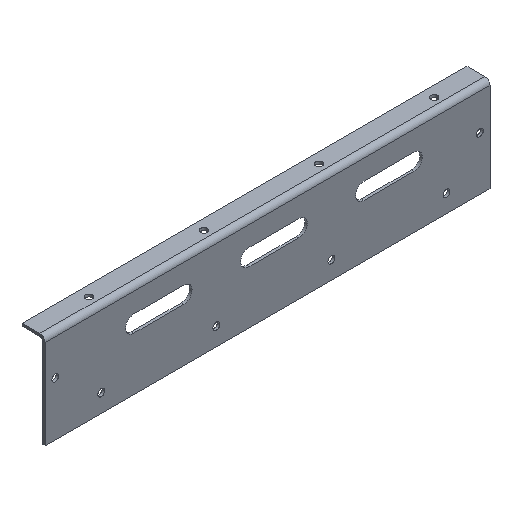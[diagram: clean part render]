
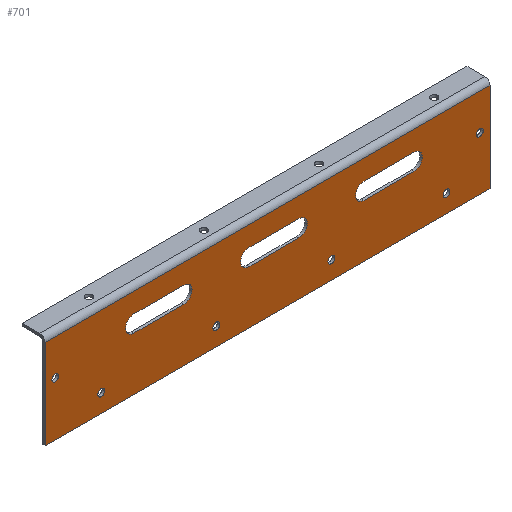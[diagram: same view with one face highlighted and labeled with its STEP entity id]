
A CAD part, isometric view. The second image highlights one B-rep face of the part: STEP entity #701.
In plain terms, the highlighted planar face has unit normal (0, -1, 0).
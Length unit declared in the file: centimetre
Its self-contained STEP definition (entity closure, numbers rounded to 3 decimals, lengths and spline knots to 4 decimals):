
#23=FACE_BOUND('',#136,.T.);
#24=FACE_BOUND('',#137,.T.);
#25=FACE_BOUND('',#138,.T.);
#26=FACE_BOUND('',#139,.T.);
#27=FACE_BOUND('',#140,.T.);
#28=FACE_BOUND('',#141,.T.);
#29=FACE_BOUND('',#142,.T.);
#30=FACE_BOUND('',#143,.T.);
#31=FACE_BOUND('',#144,.T.);
#55=PLANE('',#787);
#91=FACE_OUTER_BOUND('',#135,.T.);
#135=EDGE_LOOP('',(#599,#600,#601,#602));
#136=EDGE_LOOP('',(#603,#604,#605,#606));
#137=EDGE_LOOP('',(#607,#608,#609,#610));
#138=EDGE_LOOP('',(#611));
#139=EDGE_LOOP('',(#612));
#140=EDGE_LOOP('',(#613));
#141=EDGE_LOOP('',(#614));
#142=EDGE_LOOP('',(#615));
#143=EDGE_LOOP('',(#616));
#144=EDGE_LOOP('',(#617,#618,#619,#620));
#161=LINE('',#1023,#219);
#166=LINE('',#1037,#224);
#175=LINE('',#1083,#233);
#180=LINE('',#1097,#238);
#183=LINE('',#1107,#241);
#188=LINE('',#1121,#246);
#192=LINE('',#1135,#250);
#207=LINE('',#1171,#265);
#210=LINE('',#1177,#268);
#211=LINE('',#1178,#269);
#219=VECTOR('',#823,1.);
#224=VECTOR('',#836,1.);
#233=VECTOR('',#889,1.);
#238=VECTOR('',#902,1.);
#241=VECTOR('',#913,1.);
#246=VECTOR('',#926,1.);
#250=VECTOR('',#940,1.);
#265=VECTOR('',#979,1.);
#268=VECTOR('',#984,1.);
#269=VECTOR('',#985,1.);
#281=CIRCLE('',#733,0.325);
#283=CIRCLE('',#737,0.325);
#285=CIRCLE('',#740,0.135);
#287=CIRCLE('',#743,0.135);
#289=CIRCLE('',#746,0.135);
#291=CIRCLE('',#749,0.135);
#293=CIRCLE('',#752,0.135);
#295=CIRCLE('',#755,0.135);
#297=CIRCLE('',#759,0.325);
#299=CIRCLE('',#763,0.325);
#301=CIRCLE('',#767,0.325);
#303=CIRCLE('',#771,0.325);
#317=VERTEX_POINT('',#1021);
#318=VERTEX_POINT('',#1022);
#321=VERTEX_POINT('',#1030);
#323=VERTEX_POINT('',#1036);
#325=VERTEX_POINT('',#1045);
#327=VERTEX_POINT('',#1051);
#329=VERTEX_POINT('',#1057);
#331=VERTEX_POINT('',#1063);
#333=VERTEX_POINT('',#1069);
#335=VERTEX_POINT('',#1075);
#337=VERTEX_POINT('',#1081);
#338=VERTEX_POINT('',#1082);
#341=VERTEX_POINT('',#1090);
#343=VERTEX_POINT('',#1096);
#345=VERTEX_POINT('',#1105);
#346=VERTEX_POINT('',#1106);
#349=VERTEX_POINT('',#1114);
#351=VERTEX_POINT('',#1120);
#355=VERTEX_POINT('',#1132);
#356=VERTEX_POINT('',#1134);
#365=VERTEX_POINT('',#1170);
#367=VERTEX_POINT('',#1176);
#381=EDGE_CURVE('',#317,#318,#161,.T.);
#385=EDGE_CURVE('',#318,#321,#281,.T.);
#388=EDGE_CURVE('',#321,#323,#166,.T.);
#391=EDGE_CURVE('',#323,#317,#283,.T.);
#393=EDGE_CURVE('',#325,#325,#285,.T.);
#396=EDGE_CURVE('',#327,#327,#287,.T.);
#399=EDGE_CURVE('',#329,#329,#289,.T.);
#402=EDGE_CURVE('',#331,#331,#291,.T.);
#405=EDGE_CURVE('',#333,#333,#293,.T.);
#408=EDGE_CURVE('',#335,#335,#295,.T.);
#411=EDGE_CURVE('',#337,#338,#175,.T.);
#415=EDGE_CURVE('',#338,#341,#297,.T.);
#418=EDGE_CURVE('',#341,#343,#180,.T.);
#421=EDGE_CURVE('',#343,#337,#299,.T.);
#423=EDGE_CURVE('',#345,#346,#183,.T.);
#427=EDGE_CURVE('',#346,#349,#301,.T.);
#430=EDGE_CURVE('',#349,#351,#188,.T.);
#433=EDGE_CURVE('',#351,#345,#303,.T.);
#437=EDGE_CURVE('',#356,#355,#192,.T.);
#455=EDGE_CURVE('',#365,#356,#207,.T.);
#458=EDGE_CURVE('',#355,#367,#210,.T.);
#459=EDGE_CURVE('',#367,#365,#211,.T.);
#599=ORIENTED_EDGE('',*,*,#437,.T.);
#600=ORIENTED_EDGE('',*,*,#458,.T.);
#601=ORIENTED_EDGE('',*,*,#459,.T.);
#602=ORIENTED_EDGE('',*,*,#455,.T.);
#603=ORIENTED_EDGE('',*,*,#430,.T.);
#604=ORIENTED_EDGE('',*,*,#433,.T.);
#605=ORIENTED_EDGE('',*,*,#423,.T.);
#606=ORIENTED_EDGE('',*,*,#427,.T.);
#607=ORIENTED_EDGE('',*,*,#418,.T.);
#608=ORIENTED_EDGE('',*,*,#421,.T.);
#609=ORIENTED_EDGE('',*,*,#411,.T.);
#610=ORIENTED_EDGE('',*,*,#415,.T.);
#611=ORIENTED_EDGE('',*,*,#408,.T.);
#612=ORIENTED_EDGE('',*,*,#405,.T.);
#613=ORIENTED_EDGE('',*,*,#402,.T.);
#614=ORIENTED_EDGE('',*,*,#399,.T.);
#615=ORIENTED_EDGE('',*,*,#396,.T.);
#616=ORIENTED_EDGE('',*,*,#393,.T.);
#617=ORIENTED_EDGE('',*,*,#388,.T.);
#618=ORIENTED_EDGE('',*,*,#391,.T.);
#619=ORIENTED_EDGE('',*,*,#381,.T.);
#620=ORIENTED_EDGE('',*,*,#385,.T.);
#701=ADVANCED_FACE('',(#91,#23,#24,#25,#26,#27,#28,#29,#30,#31),#55,.F.);
#733=AXIS2_PLACEMENT_3D('',#1031,#829,#830);
#737=AXIS2_PLACEMENT_3D('',#1042,#841,#842);
#740=AXIS2_PLACEMENT_3D('',#1046,#847,#848);
#743=AXIS2_PLACEMENT_3D('',#1052,#854,#855);
#746=AXIS2_PLACEMENT_3D('',#1058,#861,#862);
#749=AXIS2_PLACEMENT_3D('',#1064,#868,#869);
#752=AXIS2_PLACEMENT_3D('',#1070,#875,#876);
#755=AXIS2_PLACEMENT_3D('',#1076,#882,#883);
#759=AXIS2_PLACEMENT_3D('',#1091,#895,#896);
#763=AXIS2_PLACEMENT_3D('',#1102,#907,#908);
#767=AXIS2_PLACEMENT_3D('',#1115,#919,#920);
#771=AXIS2_PLACEMENT_3D('',#1126,#931,#932);
#787=AXIS2_PLACEMENT_3D('',#1175,#982,#983);
#823=DIRECTION('',(1.,0.,0.));
#829=DIRECTION('center_axis',(0.,1.,0.));
#830=DIRECTION('ref_axis',(0.,0.,1.));
#836=DIRECTION('',(-1.,0.,0.));
#841=DIRECTION('center_axis',(0.,1.,0.));
#842=DIRECTION('ref_axis',(0.,0.,-1.));
#847=DIRECTION('center_axis',(0.,1.,0.));
#848=DIRECTION('ref_axis',(1.,0.,0.));
#854=DIRECTION('center_axis',(0.,1.,0.));
#855=DIRECTION('ref_axis',(1.,0.,0.));
#861=DIRECTION('center_axis',(0.,1.,0.));
#862=DIRECTION('ref_axis',(1.,0.,0.));
#868=DIRECTION('center_axis',(0.,1.,0.));
#869=DIRECTION('ref_axis',(1.,0.,0.));
#875=DIRECTION('center_axis',(0.,1.,0.));
#876=DIRECTION('ref_axis',(1.,0.,0.));
#882=DIRECTION('center_axis',(0.,1.,0.));
#883=DIRECTION('ref_axis',(1.,0.,0.));
#889=DIRECTION('',(1.,0.,0.));
#895=DIRECTION('center_axis',(0.,1.,0.));
#896=DIRECTION('ref_axis',(0.,0.,1.));
#902=DIRECTION('',(-1.,0.,0.));
#907=DIRECTION('center_axis',(0.,1.,0.));
#908=DIRECTION('ref_axis',(0.,0.,-1.));
#913=DIRECTION('',(1.,0.,0.));
#919=DIRECTION('center_axis',(0.,1.,0.));
#920=DIRECTION('ref_axis',(0.,0.,1.));
#926=DIRECTION('',(-1.,0.,0.));
#931=DIRECTION('center_axis',(0.,1.,0.));
#932=DIRECTION('ref_axis',(0.,0.,-1.));
#940=DIRECTION('',(-1.,0.,0.));
#979=DIRECTION('',(0.,0.,1.));
#982=DIRECTION('center_axis',(0.,1.,0.));
#983=DIRECTION('ref_axis',(1.,0.,0.));
#984=DIRECTION('',(0.,0.,-1.));
#985=DIRECTION('',(1.,0.,0.));
#1021=CARTESIAN_POINT('',(8.275,-3.635,3.425));
#1022=CARTESIAN_POINT('',(10.225,-3.635,3.425));
#1023=CARTESIAN_POINT('',(8.6375,-3.635,3.425));
#1030=CARTESIAN_POINT('',(10.225,-3.635,2.775));
#1031=CARTESIAN_POINT('Origin',(10.225,-3.635,3.1));
#1036=CARTESIAN_POINT('',(8.275,-3.635,2.775));
#1037=CARTESIAN_POINT('',(9.6125,-3.635,2.775));
#1042=CARTESIAN_POINT('Origin',(8.275,-3.635,3.1));
#1045=CARTESIAN_POINT('',(17.165,-3.635,2.8));
#1046=CARTESIAN_POINT('Origin',(17.3,-3.635,2.8));
#1051=CARTESIAN_POINT('',(0.565,-3.635,2.8));
#1052=CARTESIAN_POINT('Origin',(0.7,-3.635,2.8));
#1057=CARTESIAN_POINT('',(11.365,-3.635,1.4));
#1058=CARTESIAN_POINT('Origin',(11.5,-3.635,1.4));
#1063=CARTESIAN_POINT('',(6.865,-3.635,1.4));
#1064=CARTESIAN_POINT('Origin',(7.,-3.635,1.4));
#1069=CARTESIAN_POINT('',(15.865,-3.635,1.4));
#1070=CARTESIAN_POINT('Origin',(16.,-3.635,1.4));
#1075=CARTESIAN_POINT('',(2.365,-3.635,1.4));
#1076=CARTESIAN_POINT('Origin',(2.5,-3.635,1.4));
#1081=CARTESIAN_POINT('',(3.775,-3.635,3.425));
#1082=CARTESIAN_POINT('',(5.725,-3.635,3.425));
#1083=CARTESIAN_POINT('',(6.3875,-3.635,3.425));
#1090=CARTESIAN_POINT('',(5.725,-3.635,2.775));
#1091=CARTESIAN_POINT('Origin',(5.725,-3.635,3.1));
#1096=CARTESIAN_POINT('',(3.775,-3.635,2.775));
#1097=CARTESIAN_POINT('',(7.3625,-3.635,2.775));
#1102=CARTESIAN_POINT('Origin',(3.775,-3.635,3.1));
#1105=CARTESIAN_POINT('',(12.775,-3.635,3.425));
#1106=CARTESIAN_POINT('',(14.725,-3.635,3.425));
#1107=CARTESIAN_POINT('',(10.8875,-3.635,3.425));
#1114=CARTESIAN_POINT('',(14.725,-3.635,2.775));
#1115=CARTESIAN_POINT('Origin',(14.725,-3.635,3.1));
#1120=CARTESIAN_POINT('',(12.775,-3.635,2.775));
#1121=CARTESIAN_POINT('',(11.8625,-3.635,2.775));
#1126=CARTESIAN_POINT('Origin',(12.775,-3.635,3.1));
#1132=CARTESIAN_POINT('',(0.3,-3.635,4.2));
#1134=CARTESIAN_POINT('',(17.7,-3.635,4.2));
#1135=CARTESIAN_POINT('',(4.65,-3.635,4.2));
#1170=CARTESIAN_POINT('',(17.7,-3.635,0.7));
#1171=CARTESIAN_POINT('',(17.7,-3.635,0.7));
#1175=CARTESIAN_POINT('Origin',(9.,-3.635,2.55));
#1176=CARTESIAN_POINT('',(0.3,-3.635,0.7));
#1177=CARTESIAN_POINT('',(0.3,-3.635,4.4));
#1178=CARTESIAN_POINT('',(0.3,-3.635,0.7));
